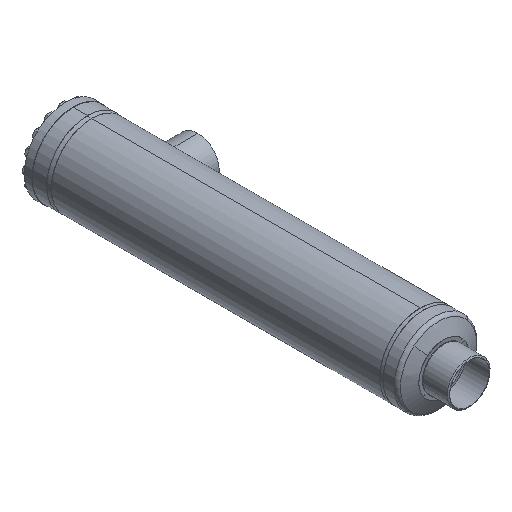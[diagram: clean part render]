
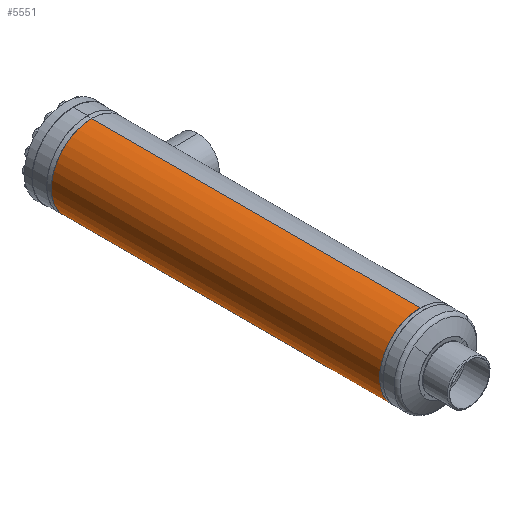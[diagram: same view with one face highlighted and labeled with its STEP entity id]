
A CAD part, isometric view. The second image highlights one B-rep face of the part: STEP entity #5551.
In plain terms, the highlighted cylindrical face has radius 84.15 mm (diameter 168.3 mm), a partial arc.
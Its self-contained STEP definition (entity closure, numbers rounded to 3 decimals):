
#166 = CARTESIAN_POINT ( 'NONE',  ( 0., 686.536, -84.15 ) ) ;
#2017 = EDGE_CURVE ( 'NONE', #3171, #9635, #12868, .T. ) ;
#2495 = CIRCLE ( 'NONE', #2496, 84.15 ) ;
#2496 = AXIS2_PLACEMENT_3D ( 'NONE', #2499, #2500, #2501 ) ;
#2499 = CARTESIAN_POINT ( 'NONE',  ( 0., 686.536, 0. ) ) ;
#2500 = DIRECTION ( 'NONE',  ( 0., -1., 0. ) ) ;
#2501 = DIRECTION ( 'NONE',  ( 0., 0., -1. ) ) ;
#2917 = FACE_OUTER_BOUND ( 'NONE', #5295, .T. ) ;
#2918 = CYLINDRICAL_SURFACE ( 'NONE', #2919, 84.15 ) ;
#2919 = AXIS2_PLACEMENT_3D ( 'NONE', #2920, #2921, #2924 ) ;
#2920 = CARTESIAN_POINT ( 'NONE',  ( 0., 0., 0. ) ) ;
#2921 = DIRECTION ( 'NONE',  ( 0., -1., 0. ) ) ;
#2924 = DIRECTION ( 'NONE',  ( 0., 0., -1. ) ) ;
#3171 = VERTEX_POINT ( 'NONE', #166 ) ;
#3639 = CIRCLE ( 'NONE', #3640, 84.15 ) ;
#3640 = AXIS2_PLACEMENT_3D ( 'NONE', #3641, #3642, #3643 ) ;
#3641 = CARTESIAN_POINT ( 'NONE',  ( 0., 3.464, 0. ) ) ;
#3642 = DIRECTION ( 'NONE',  ( 0., -1., 0. ) ) ;
#3643 = DIRECTION ( 'NONE',  ( 0., 0., -1. ) ) ;
#3733 = ORIENTED_EDGE ( 'NONE', *, *, #5943, .F. ) ;
#4520 = ORIENTED_EDGE ( 'NONE', *, *, #2017, .T. ) ;
#4769 = ORIENTED_EDGE ( 'NONE', *, *, #8360, .F. ) ;
#5046 = EDGE_CURVE ( 'NONE', #11277, #3171, #2495, .T. ) ;
#5295 = EDGE_LOOP ( 'NONE', ( #4769, #5430, #4520, #3733 ) ) ;
#5430 = ORIENTED_EDGE ( 'NONE', *, *, #5046, .T. ) ;
#5495 = CARTESIAN_POINT ( 'NONE',  ( 0., 686.536, 84.15 ) ) ;
#5551 = ADVANCED_FACE ( 'NONE', ( #2917 ), #2918, .T. ) ;
#5943 = EDGE_CURVE ( 'NONE', #8602, #9635, #3639, .T. ) ;
#6570 = LINE ( 'NONE', #6571, #6572 ) ;
#6571 = CARTESIAN_POINT ( 'NONE',  ( 0., 0., 84.15 ) ) ;
#6572 = VECTOR ( 'NONE', #6578, 1000. ) ;
#6578 = DIRECTION ( 'NONE',  ( 0., -1., 0. ) ) ;
#6736 = CARTESIAN_POINT ( 'NONE',  ( 0., 3.464, 84.15 ) ) ;
#8360 = EDGE_CURVE ( 'NONE', #11277, #8602, #6570, .T. ) ;
#8384 = CARTESIAN_POINT ( 'NONE',  ( 0., 3.464, -84.15 ) ) ;
#8602 = VERTEX_POINT ( 'NONE', #6736 ) ;
#9635 = VERTEX_POINT ( 'NONE', #8384 ) ;
#11277 = VERTEX_POINT ( 'NONE', #5495 ) ;
#12868 = LINE ( 'NONE', #12869, #12870 ) ;
#12869 = CARTESIAN_POINT ( 'NONE',  ( 0., 0., -84.15 ) ) ;
#12870 = VECTOR ( 'NONE', #12871, 1000. ) ;
#12871 = DIRECTION ( 'NONE',  ( 0., -1., 0. ) ) ;
